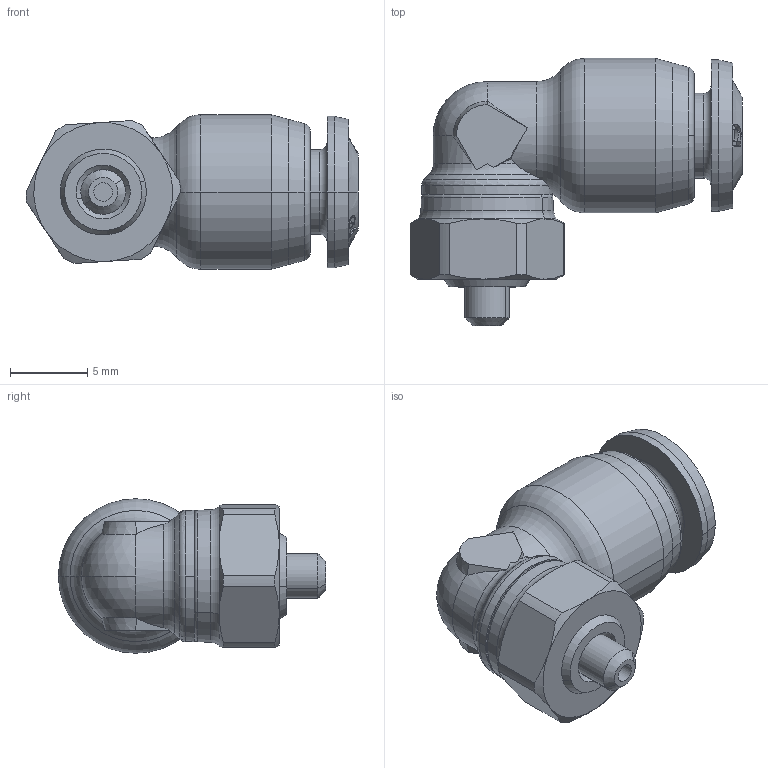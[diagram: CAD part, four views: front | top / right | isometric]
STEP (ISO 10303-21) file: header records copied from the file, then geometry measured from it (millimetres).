
FILE_DESCRIPTION (( 'STEP AP214' ), '1' );
FILE_NAME ('5511600001.step', '2012-10-02T17:36:27', ( '' ), ( '' ), 'SwSTEP 2.0', 'SolidWorks 2012', '' );
FILE_SCHEMA (( 'AUTOMOTIVE_DESIGN' ));
Length unit declared in the file: millimetre
Products named in the file (1): 5511600001
Bounding box: 21.5 x 17.3 x 10 mm (x, y, z)
Volume: 1445.6 mm3; surface area: 1162.8 mm2
Topology: 2 solids, 3 shells, 251 faces, 621 edges, 397 vertices
Faces by surface type: bspline 116, cone 53, plane 31, cylinder 29, torus 20, sphere 2
Entity records: 14537 total; most frequent: CARTESIAN_POINT 6850, ORIENTED_EDGE 1242, DIRECTION 625, EDGE_CURVE 621, B_SPLINE_CURVE_WITH_KNOTS 398, VERTEX_POINT 397, AXIS2_PLACEMENT_3D 278, EDGE_LOOP 276
